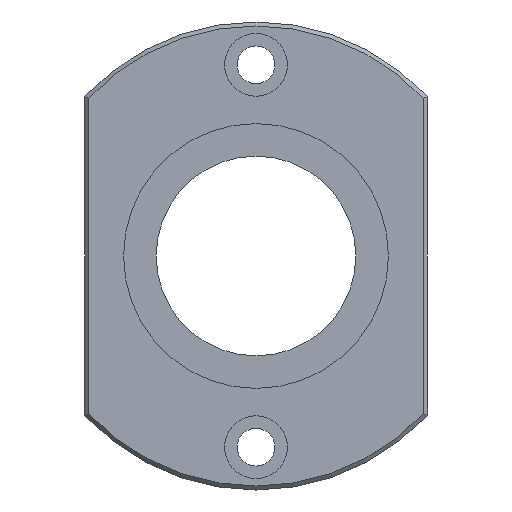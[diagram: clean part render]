
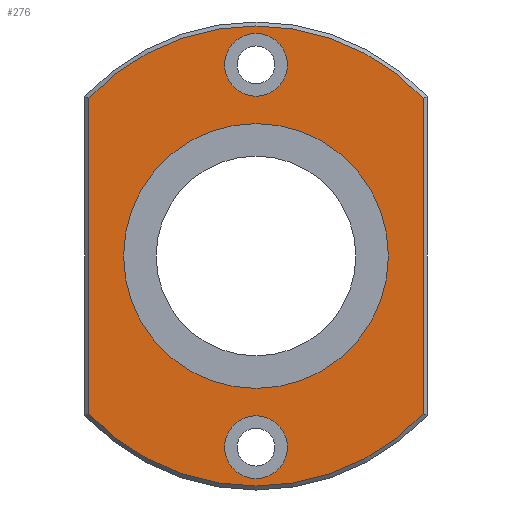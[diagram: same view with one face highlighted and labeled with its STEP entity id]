
A CAD part, left-side view. The second image highlights one B-rep face of the part: STEP entity #276.
In plain terms, the highlighted planar face has unit normal (-1, 0, 0).
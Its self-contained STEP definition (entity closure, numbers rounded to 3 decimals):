
#59=CARTESIAN_POINT('',(0.0,29.3,-27.669));
#60=VERTEX_POINT('',#59);
#68=CARTESIAN_POINT('',(0.0,29.3,27.669));
#69=VERTEX_POINT('',#68);
#70=CARTESIAN_POINT('',(0.0,29.3,-27.669));
#71=DIRECTION('',(0.0,0.0,1.0));
#72=VECTOR('',#71,55.339);
#73=LINE('',#70,#72);
#74=EDGE_CURVE('',#60,#69,#73,.T.);
#101=CARTESIAN_POINT('',(0.0,-29.3,27.669));
#102=VERTEX_POINT('',#101);
#103=CARTESIAN_POINT('',(0.0,0.0,0.0));
#104=DIRECTION('',(1.0,0.0,0.0));
#105=DIRECTION('',(0.0,0.0,1.0));
#106=AXIS2_PLACEMENT_3D('',#103,#104,#105);
#107=CIRCLE('',#106,40.3);
#108=EDGE_CURVE('',#69,#102,#107,.T.);
#134=CARTESIAN_POINT('',(0.0,-29.3,-27.669));
#135=VERTEX_POINT('',#134);
#136=CARTESIAN_POINT('',(0.0,-29.3,27.669));
#137=DIRECTION('',(0.0,0.0,-1.0));
#138=VECTOR('',#137,55.339);
#139=LINE('',#136,#138);
#140=EDGE_CURVE('',#102,#135,#139,.T.);
#165=CARTESIAN_POINT('',(0.0,0.0,0.0));
#166=DIRECTION('',(1.0,0.0,0.0));
#167=DIRECTION('',(0.0,0.0,-1.0));
#168=AXIS2_PLACEMENT_3D('',#165,#166,#167);
#169=CIRCLE('',#168,40.3);
#170=EDGE_CURVE('',#135,#60,#169,.T.);
#232=CARTESIAN_POINT('',(0.0,0.0,24.6));
#233=DIRECTION('',(-1.0,0.0,0.0));
#234=DIRECTION('',(0.0,0.0,1.0));
#235=AXIS2_PLACEMENT_3D('',#232,#233,#234);
#236=PLANE('',#235);
#237=ORIENTED_EDGE('',*,*,#74,.F.);
#238=ORIENTED_EDGE('',*,*,#170,.F.);
#239=ORIENTED_EDGE('',*,*,#140,.F.);
#240=ORIENTED_EDGE('',*,*,#108,.F.);
#241=EDGE_LOOP('',(#237,#238,#239,#240));
#242=FACE_OUTER_BOUND('',#241,.T.);
#243=CARTESIAN_POINT('',(0.0,0.0,23.2));
#244=VERTEX_POINT('',#243);
#245=CARTESIAN_POINT('',(0.0,0.0,0.0));
#246=DIRECTION('',(-1.0,0.0,0.0));
#247=DIRECTION('',(0.0,0.0,1.0));
#248=AXIS2_PLACEMENT_3D('',#245,#246,#247);
#249=CIRCLE('',#248,23.2);
#250=EDGE_CURVE('',#244,#244,#249,.T.);
#251=ORIENTED_EDGE('',*,*,#250,.F.);
#252=EDGE_LOOP('',(#251));
#253=FACE_BOUND('',#252,.T.);
#254=CARTESIAN_POINT('',(0.0,5.5,-33.5));
#255=VERTEX_POINT('',#254);
#256=CARTESIAN_POINT('',(0.0,0.,-33.5));
#257=DIRECTION('',(1.0,0.0,0.0));
#258=DIRECTION('',(0.0,1.0,0.0));
#259=AXIS2_PLACEMENT_3D('',#256,#257,#258);
#260=CIRCLE('',#259,5.5);
#261=EDGE_CURVE('',#255,#255,#260,.T.);
#262=ORIENTED_EDGE('',*,*,#261,.T.);
#263=EDGE_LOOP('',(#262));
#264=FACE_BOUND('',#263,.T.);
#265=CARTESIAN_POINT('',(0.0,5.5,33.5));
#266=VERTEX_POINT('',#265);
#267=CARTESIAN_POINT('',(0.0,0.,33.5));
#268=DIRECTION('',(1.0,0.0,0.0));
#269=DIRECTION('',(0.0,1.0,0.0));
#270=AXIS2_PLACEMENT_3D('',#267,#268,#269);
#271=CIRCLE('',#270,5.5);
#272=EDGE_CURVE('',#266,#266,#271,.T.);
#273=ORIENTED_EDGE('',*,*,#272,.T.);
#274=EDGE_LOOP('',(#273));
#275=FACE_BOUND('',#274,.T.);
#276=ADVANCED_FACE('',(#242,#253,#264,#275),#236,.T.);
